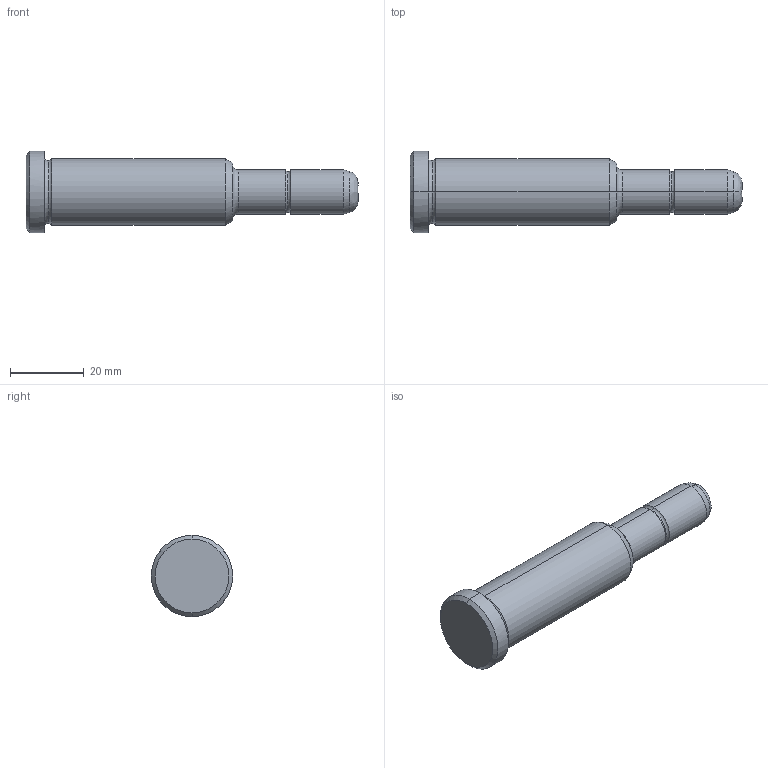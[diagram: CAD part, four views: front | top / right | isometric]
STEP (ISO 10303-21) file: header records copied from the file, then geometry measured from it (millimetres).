
FILE_DESCRIPTION(('CATIA V5 STEP Exchange'),'2;1');
FILE_NAME('C:\Users\Utente\Desktop\IO LAVORO\3D X SITO CF\X SITO\PLASTICA\351\351-12X56X90.stp','2021-08-17T13:15:46+00:00',('none'),('none'),'CATIA Version 5 Release 20 GA (IN-10)','CATIA V5 STEP AP203','none');
FILE_SCHEMA(('CONFIG_CONTROL_DESIGN'));
Length unit declared in the file: millimetre
Products named in the file (1): 351-12X56X90
Bounding box: 90 x 22 x 22 mm (x, y, z)
Volume: 18482.7 mm3; surface area: 5111.4 mm2
Topology: 1 solids, 1 shells, 30 faces, 86 edges, 60 vertices
Faces by surface type: torus 10, cylinder 8, cone 6, plane 4, bspline 2
Entity records: 1128 total; most frequent: CARTESIAN_POINT 343, ORIENTED_EDGE 172, DIRECTION 124, EDGE_CURVE 86, AXIS2_PLACEMENT_3D 83, VERTEX_POINT 60, CIRCLE 54, EDGE_LOOP 32
